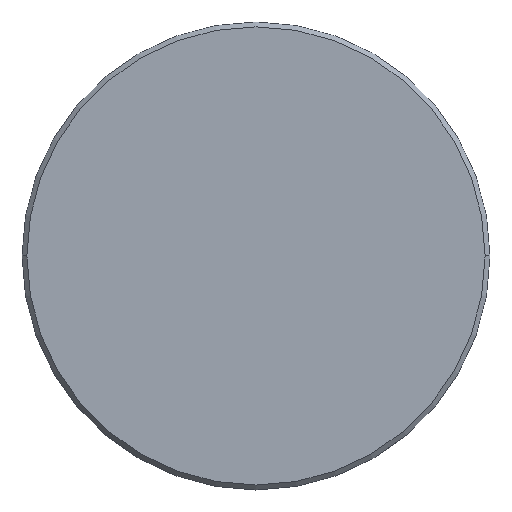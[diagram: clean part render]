
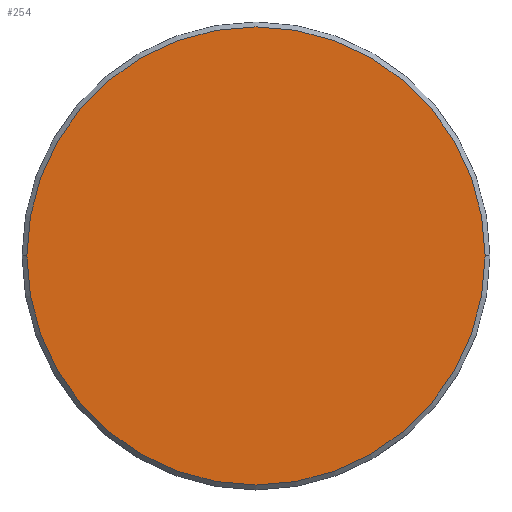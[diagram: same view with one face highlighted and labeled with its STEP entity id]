
A CAD part, top view. The second image highlights one B-rep face of the part: STEP entity #254.
In plain terms, the highlighted planar face has unit normal (0, 0, 1).
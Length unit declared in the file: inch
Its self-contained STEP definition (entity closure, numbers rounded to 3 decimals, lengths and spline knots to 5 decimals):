
#62=CARTESIAN_POINT('',(0.,0.,0.325));
#63=DIRECTION('',(0.,0.,1.));
#64=DIRECTION('',(-1.,0.,0.));
#65=AXIS2_PLACEMENT_3D('',#62,#63,#64);
#67=CARTESIAN_POINT('',(0.,0.,0.325));
#68=DIRECTION('',(0.,0.,1.));
#69=DIRECTION('',(1.,0.,0.));
#70=AXIS2_PLACEMENT_3D('',#67,#68,#69);
#116=CARTESIAN_POINT('',(-1.415,0.,0.325));
#117=CARTESIAN_POINT('',(1.415,0.,0.325));
#118=VERTEX_POINT('',#116);
#119=VERTEX_POINT('',#117);
#244=CARTESIAN_POINT('',(0.,0.,0.325));
#245=DIRECTION('',(0.,0.,-1.));
#246=DIRECTION('',(-1.,0.,0.));
#247=AXIS2_PLACEMENT_3D('',#244,#245,#246);
#248=PLANE('',#247);
#250=ORIENTED_EDGE('',*,*,#249,.F.);
#251=ORIENTED_EDGE('',*,*,#234,.F.);
#252=EDGE_LOOP('',(#250,#251));
#253=FACE_OUTER_BOUND('',#252,.F.);
#254=ADVANCED_FACE('',(#253),#248,.F.);
#66=CIRCLE('',#65,1.415);
#71=CIRCLE('',#70,1.415);
#234=EDGE_CURVE('',#119,#118,#71,.T.);
#249=EDGE_CURVE('',#118,#119,#66,.T.);
